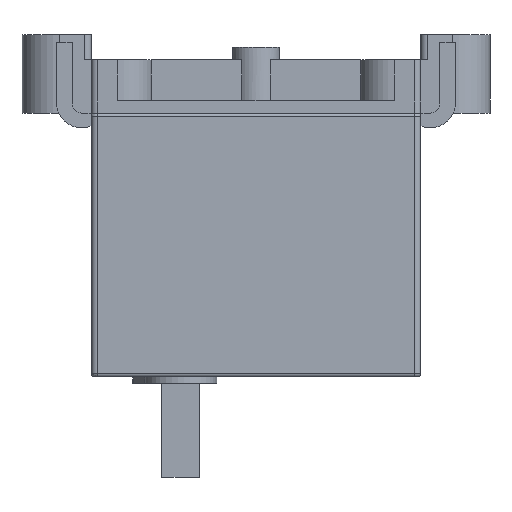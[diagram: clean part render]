
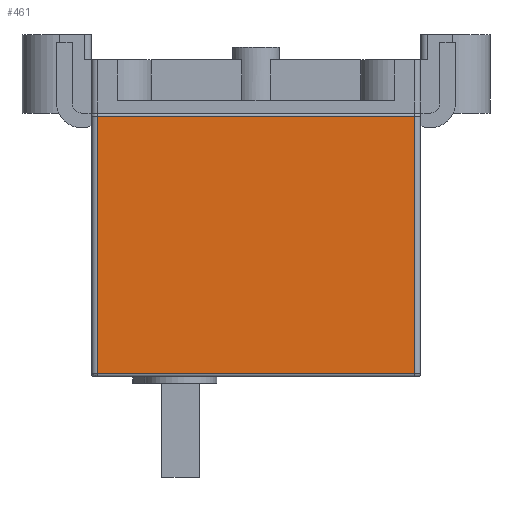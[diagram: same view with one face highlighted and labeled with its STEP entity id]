
A CAD part, left-side view. The second image highlights one B-rep face of the part: STEP entity #461.
In plain terms, the highlighted planar face has unit normal (-1, 0, 0).
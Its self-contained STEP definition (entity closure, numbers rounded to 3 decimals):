
#119=PLANE('',#4462);
#461=ADVANCED_FACE('',(#745),#119,.F.);
#745=FACE_OUTER_BOUND('',#992,.T.);
#992=EDGE_LOOP('',(#2497,#2498,#2499,#2500));
#1333=LINE('',#6648,#1681);
#1340=LINE('',#6728,#1688);
#1346=LINE('',#6743,#1694);
#1347=LINE('',#6745,#1695);
#1681=VECTOR('',#5387,1.);
#1688=VECTOR('',#5440,1.);
#1694=VECTOR('',#5462,1.);
#1695=VECTOR('',#5465,1.);
#2497=ORIENTED_EDGE('',*,*,#3756,.T.);
#2498=ORIENTED_EDGE('',*,*,#3723,.T.);
#2499=ORIENTED_EDGE('',*,*,#3757,.F.);
#2500=ORIENTED_EDGE('',*,*,#3747,.T.);
#3221=VERTEX_POINT('',#6636);
#3225=VERTEX_POINT('',#6645);
#3240=VERTEX_POINT('',#6700);
#3244=VERTEX_POINT('',#6727);
#3723=EDGE_CURVE('',#3225,#3221,#1333,.T.);
#3747=EDGE_CURVE('',#3240,#3244,#1340,.T.);
#3756=EDGE_CURVE('',#3244,#3225,#1346,.T.);
#3757=EDGE_CURVE('',#3240,#3221,#1347,.T.);
#4462=AXIS2_PLACEMENT_3D('',#6746,#5466,#5467);
#5387=DIRECTION('',(0.,1.,0.));
#5440=DIRECTION('',(0.,-1.,0.));
#5462=DIRECTION('',(0.,0.,1.));
#5465=DIRECTION('',(0.,0.,1.));
#5466=DIRECTION('',(1.,0.,0.));
#5467=DIRECTION('',(0.,1.,0.));
#6636=CARTESIAN_POINT('',(-197.5,50.5,-1.));
#6645=CARTESIAN_POINT('',(-197.5,-50.5,-1.));
#6648=CARTESIAN_POINT('',(-197.5,-50.5,-1.));
#6700=CARTESIAN_POINT('',(-197.5,50.5,-83.));
#6727=CARTESIAN_POINT('',(-197.5,-50.5,-83.));
#6728=CARTESIAN_POINT('',(-197.5,-50.5,-83.));
#6743=CARTESIAN_POINT('',(-197.5,-50.5,-84.));
#6745=CARTESIAN_POINT('',(-197.5,50.5,-84.));
#6746=CARTESIAN_POINT('',(-197.5,-50.5,-84.));
